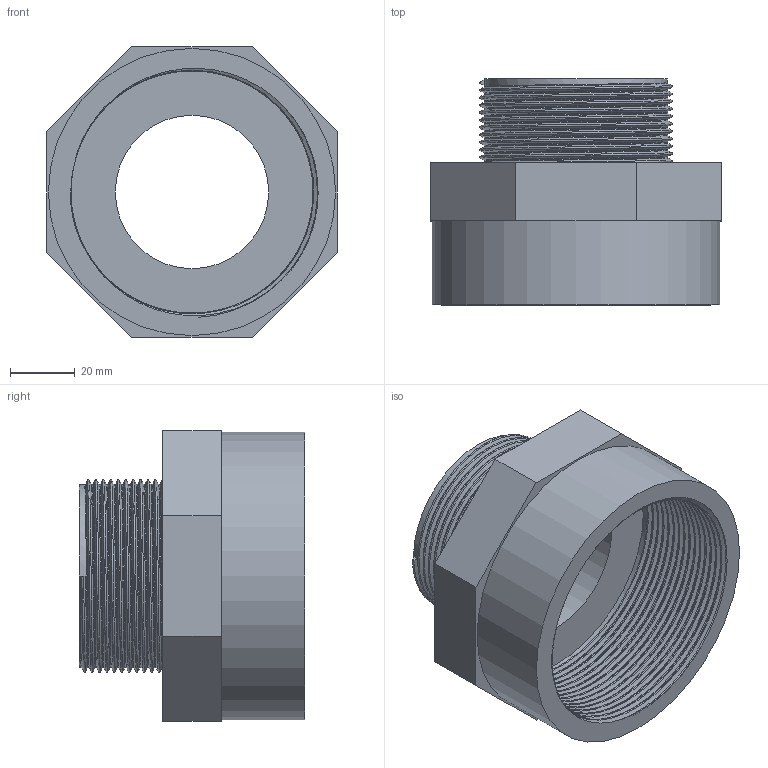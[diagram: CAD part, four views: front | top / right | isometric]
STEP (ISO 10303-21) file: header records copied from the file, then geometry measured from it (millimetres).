
FILE_DESCRIPTION(/* description */ ('PVC riduzione filettata BSP femmina-maschio (maggioratore filettato BSP M-F)'),/* implementation_level */ '2;1');
FILE_NAME(/* name */ 'C:\Users\POLYPIPE\Desktop\DATASET INVENTOR\LIBRERIA EFFAST\RACCORDI 3DxWEB\RER\3D_RERMGE\3D_RERMGE063H.stp',/* time_stamp */ '2018-01-19T16:40:26+01:00',/* author */ ('POLYPIPE'),/* organization */ ('Polypipe Italia s.r.l.'),/* preprocessor_version */ 'ST-DEVELOPER v16.1',/* originating_system */ 'Autodesk Inventor 2016',/* authorisation */ '');
FILE_SCHEMA (('CONFIG_CONTROL_DESIGN'));
Length unit declared in the file: millimetre
Products named in the file (1): 3D_RERMGE
Bounding box: 90 x 70 x 90 mm (x, y, z)
Volume: 127158.5 mm3; surface area: 49651.5 mm2
Topology: 1 solids, 1 shells, 29 faces, 69 edges, 45 vertices
Faces by surface type: plane 15, bspline 10, cylinder 4
Full cylindrical faces by diameter (mm): 47.5 x1, 56.656 x1, 75.184 x1, 89 x1
Entity records: 10410 total; most frequent: CARTESIAN_POINT 9795, ORIENTED_EDGE 128, DIRECTION 94, EDGE_CURVE 64, VERTEX_POINT 43, EDGE_LOOP 37, AXIS2_PLACEMENT_3D 32, LINE 30
